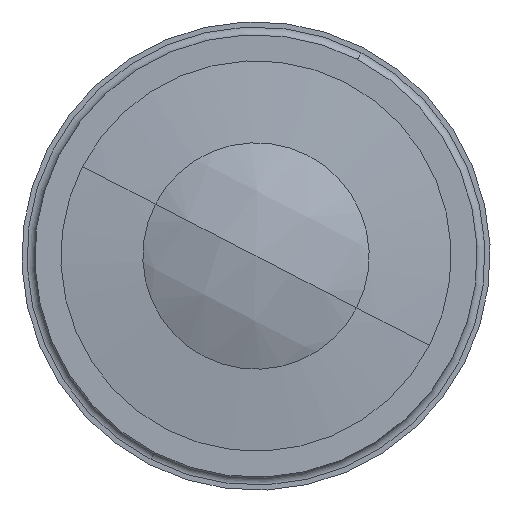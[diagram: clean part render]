
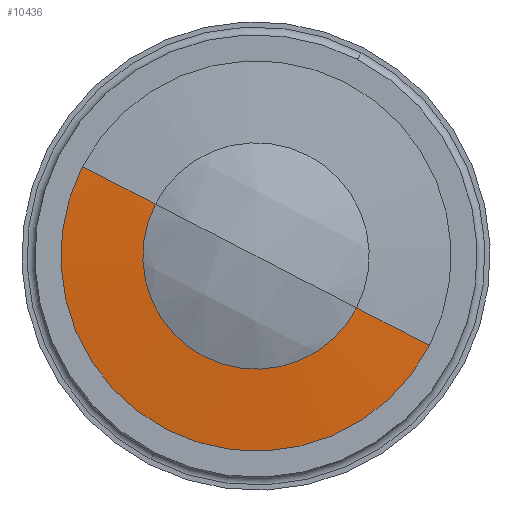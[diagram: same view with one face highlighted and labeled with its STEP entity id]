
A CAD part, left-side view. The second image highlights one B-rep face of the part: STEP entity #10436.
In plain terms, the highlighted spherical face has radius 56.5 mm.
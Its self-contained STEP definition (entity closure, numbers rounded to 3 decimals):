
#1461 = AXIS2_PLACEMENT_3D ( 'NONE', #5912, #5916, #5909 ) ;
#1577 = AXIS2_PLACEMENT_3D ( 'NONE', #9179, #9178, #9177 ) ;
#1578 = AXIS2_PLACEMENT_3D ( 'NONE', #9183, #9182, #9181 ) ;
#1579 = AXIS2_PLACEMENT_3D ( 'NONE', #9186, #9185, #9184 ) ;
#1580 = AXIS2_PLACEMENT_3D ( 'NONE', #9189, #9188, #9187 ) ;
#1581 = AXIS2_PLACEMENT_3D ( 'NONE', #9192, #9191, #9190 ) ;
#1679 = EDGE_CURVE ( 'NONE', #6824, #5423, #5220, .T. ) ;
#1680 = EDGE_CURVE ( 'NONE', #5423, #5394, #5221, .T. ) ;
#1681 = EDGE_CURVE ( 'NONE', #6922, #5394, #5217, .T. ) ;
#1682 = EDGE_CURVE ( 'NONE', #6332, #6922, #5218, .T. ) ;
#1683 = EDGE_CURVE ( 'NONE', #6824, #6332, #5216, .T. ) ;
#4337 = CARTESIAN_POINT ( 'NONE',  ( 26.454, 0., -4.35 ) ) ;
#4382 = CARTESIAN_POINT ( 'NONE',  ( 26.786, 7.5, 0. ) ) ;
#4428 = CARTESIAN_POINT ( 'NONE',  ( 26.454, 4.35, 0. ) ) ;
#4529 = CARTESIAN_POINT ( 'NONE',  ( 26.786, -7.5, 0. ) ) ;
#4572 = CARTESIAN_POINT ( 'NONE',  ( 26.454, -4.35, 0. ) ) ;
#4920 = FACE_OUTER_BOUND ( 'NONE', #6284, .T. ) ;
#4923 = SPHERICAL_SURFACE ( 'NONE', #1461, 56.5 ) ;
#5216 = CIRCLE ( 'NONE', #1577, 56.5 ) ;
#5217 = CIRCLE ( 'NONE', #1579, 4.35 ) ;
#5218 = CIRCLE ( 'NONE', #1578, 4.35 ) ;
#5220 = CIRCLE ( 'NONE', #1581, 7.5 ) ;
#5221 = CIRCLE ( 'NONE', #1580, 56.5 ) ;
#5394 = VERTEX_POINT ( 'NONE', #4572 ) ;
#5423 = VERTEX_POINT ( 'NONE', #4529 ) ;
#5909 = DIRECTION ( 'NONE',  ( 0., 1., 0. ) ) ;
#5912 = CARTESIAN_POINT ( 'NONE',  ( 82.786, 0., 0. ) ) ;
#5916 = DIRECTION ( 'NONE',  ( 0., 0., -1. ) ) ;
#6284 = EDGE_LOOP ( 'NONE', ( #6469, #6470, #6471, #6472, #6473 ) ) ;
#6332 = VERTEX_POINT ( 'NONE', #4428 ) ;
#6469 = ORIENTED_EDGE ( 'NONE', *, *, #1679, .T. ) ;
#6470 = ORIENTED_EDGE ( 'NONE', *, *, #1680, .T. ) ;
#6471 = ORIENTED_EDGE ( 'NONE', *, *, #1681, .F. ) ;
#6472 = ORIENTED_EDGE ( 'NONE', *, *, #1682, .F. ) ;
#6473 = ORIENTED_EDGE ( 'NONE', *, *, #1683, .F. ) ;
#6824 = VERTEX_POINT ( 'NONE', #4382 ) ;
#6922 = VERTEX_POINT ( 'NONE', #4337 ) ;
#9177 = DIRECTION ( 'NONE',  ( 1., 0., 0. ) ) ;
#9178 = DIRECTION ( 'NONE',  ( 0., 0., 1. ) ) ;
#9179 = CARTESIAN_POINT ( 'NONE',  ( 82.786, 0., 0. ) ) ;
#9181 = DIRECTION ( 'NONE',  ( 0., 0., 1. ) ) ;
#9182 = DIRECTION ( 'NONE',  ( -1., 0., 0. ) ) ;
#9183 = CARTESIAN_POINT ( 'NONE',  ( 26.454, 0., 0. ) ) ;
#9184 = DIRECTION ( 'NONE',  ( 0., 0., 1. ) ) ;
#9185 = DIRECTION ( 'NONE',  ( -1., 0., 0. ) ) ;
#9186 = CARTESIAN_POINT ( 'NONE',  ( 26.454, 0., 0. ) ) ;
#9187 = DIRECTION ( 'NONE',  ( 0., 1., 0. ) ) ;
#9188 = DIRECTION ( 'NONE',  ( 0., 0., -1. ) ) ;
#9189 = CARTESIAN_POINT ( 'NONE',  ( 82.786, 0., 0. ) ) ;
#9190 = DIRECTION ( 'NONE',  ( 0., 0., 1. ) ) ;
#9191 = DIRECTION ( 'NONE',  ( -1., 0., 0. ) ) ;
#9192 = CARTESIAN_POINT ( 'NONE',  ( 26.786, 0., 0. ) ) ;
#10436 = ADVANCED_FACE ( 'NONE', ( #4920 ), #4923, .T. ) ;
